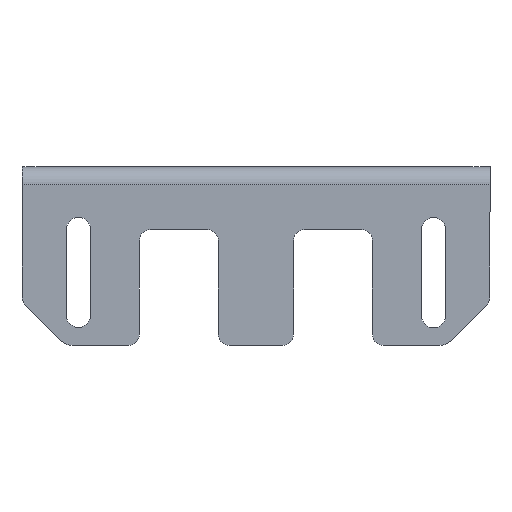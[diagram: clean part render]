
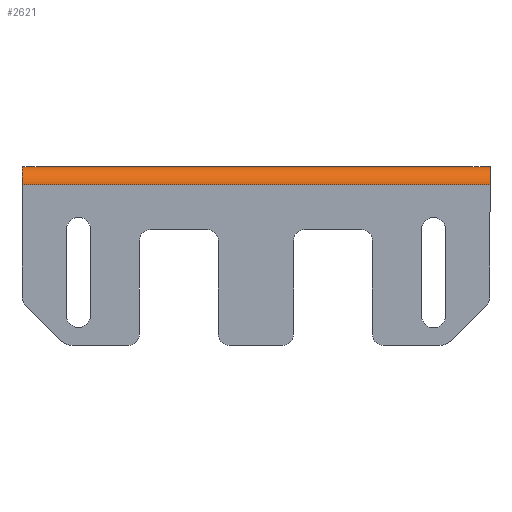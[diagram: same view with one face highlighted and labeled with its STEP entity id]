
A CAD part, front view. The second image highlights one B-rep face of the part: STEP entity #2621.
In plain terms, the highlighted cylindrical face has radius 3.335 mm (diameter 6.67 mm), a partial arc.
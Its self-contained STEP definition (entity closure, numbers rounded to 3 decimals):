
#59 = DIRECTION ( 'NONE',  ( 0., 0., -1. ) ) ;
#77 = EDGE_CURVE ( 'NONE', #103, #763, #2090, .T. ) ;
#103 = VERTEX_POINT ( 'NONE', #1248 ) ;
#192 = ORIENTED_EDGE ( 'NONE', *, *, #77, .T. ) ;
#215 = CARTESIAN_POINT ( 'NONE',  ( -43.505, 0., 13.255 ) ) ;
#293 = CYLINDRICAL_SURFACE ( 'NONE', #1345, 3.335 ) ;
#325 = CIRCLE ( 'NONE', #2749, 3.335 ) ;
#394 = DIRECTION ( 'NONE',  ( 1., 0., 0. ) ) ;
#454 = CARTESIAN_POINT ( 'NONE',  ( 43.505, 3.335, 13.255 ) ) ;
#511 = VERTEX_POINT ( 'NONE', #215 ) ;
#648 = EDGE_LOOP ( 'NONE', ( #3072, #2478, #192, #2096 ) ) ;
#763 = VERTEX_POINT ( 'NONE', #866 ) ;
#866 = CARTESIAN_POINT ( 'NONE',  ( -43.505, 3.335, 16.59 ) ) ;
#938 = AXIS2_PLACEMENT_3D ( 'NONE', #2480, #1172, #59 ) ;
#1172 = DIRECTION ( 'NONE',  ( -1., 0., 0. ) ) ;
#1248 = CARTESIAN_POINT ( 'NONE',  ( 43.505, 3.335, 16.59 ) ) ;
#1311 = EDGE_CURVE ( 'NONE', #511, #763, #1911, .T. ) ;
#1329 = EDGE_CURVE ( 'NONE', #1787, #511, #1980, .T. ) ;
#1345 = AXIS2_PLACEMENT_3D ( 'NONE', #2977, #394, #2992 ) ;
#1473 = CARTESIAN_POINT ( 'NONE',  ( -43.505, 3.335, 16.59 ) ) ;
#1529 = EDGE_CURVE ( 'NONE', #103, #1787, #325, .T. ) ;
#1678 = CARTESIAN_POINT ( 'NONE',  ( 43.505, 0., 13.255 ) ) ;
#1787 = VERTEX_POINT ( 'NONE', #3048 ) ;
#1796 = VECTOR ( 'NONE', #2506, 1000. ) ;
#1903 = FACE_OUTER_BOUND ( 'NONE', #648, .T. ) ;
#1911 = CIRCLE ( 'NONE', #938, 3.335 ) ;
#1980 = LINE ( 'NONE', #1678, #1796 ) ;
#2049 = DIRECTION ( 'NONE',  ( -1., 0., 0. ) ) ;
#2090 = LINE ( 'NONE', #1473, #3442 ) ;
#2096 = ORIENTED_EDGE ( 'NONE', *, *, #1311, .F. ) ;
#2478 = ORIENTED_EDGE ( 'NONE', *, *, #1529, .F. ) ;
#2480 = CARTESIAN_POINT ( 'NONE',  ( -43.505, 3.335, 13.255 ) ) ;
#2506 = DIRECTION ( 'NONE',  ( -1., 0., 0. ) ) ;
#2621 = ADVANCED_FACE ( 'NONE', ( #1903 ), #293, .T. ) ;
#2749 = AXIS2_PLACEMENT_3D ( 'NONE', #454, #2826, #3370 ) ;
#2826 = DIRECTION ( 'NONE',  ( 1., 0., 0. ) ) ;
#2977 = CARTESIAN_POINT ( 'NONE',  ( 43.505, 3.335, 13.255 ) ) ;
#2992 = DIRECTION ( 'NONE',  ( 0., 0., 1. ) ) ;
#3048 = CARTESIAN_POINT ( 'NONE',  ( 43.505, 0., 13.255 ) ) ;
#3072 = ORIENTED_EDGE ( 'NONE', *, *, #1329, .F. ) ;
#3370 = DIRECTION ( 'NONE',  ( 0., 0., -1. ) ) ;
#3442 = VECTOR ( 'NONE', #2049, 1000. ) ;
